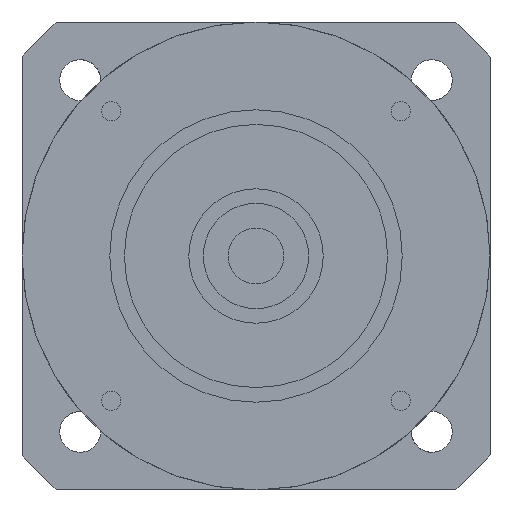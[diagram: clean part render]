
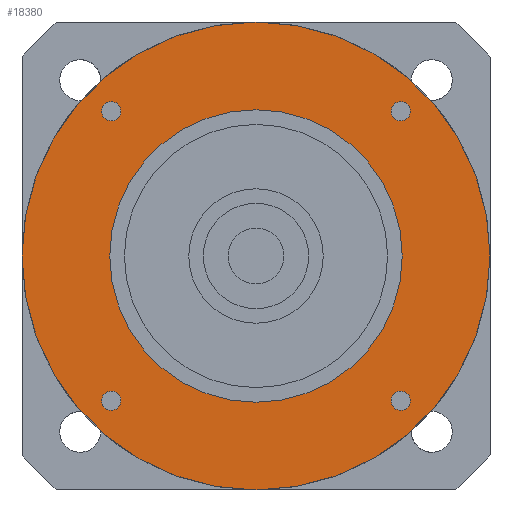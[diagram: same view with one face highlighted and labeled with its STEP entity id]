
A CAD part, left-side view. The second image highlights one B-rep face of the part: STEP entity #18380.
In plain terms, the highlighted planar face has unit normal (-1, 0, 0) as drawn and (0, 0, -1) by its records, which use the part's own axes.
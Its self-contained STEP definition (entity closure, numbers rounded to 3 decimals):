
#13680=CARTESIAN_POINT('',(23.099,24.749,-42.));
#13690=VERTEX_POINT('',#13680);
#13870=CARTESIAN_POINT('',(26.399,24.749,-42.));
#13880=VERTEX_POINT('',#13870);
#13910=CARTESIAN_POINT('',(24.749,24.749,-42.));
#13920=DIRECTION('',(0.,0.,-1.));
#13930=DIRECTION('',(1.,0.,0.));
#13940=AXIS2_PLACEMENT_3D('',#13910,#13920,#13930);
#13950=CIRCLE('',#13940,1.65);
#13960=EDGE_CURVE('',#13690,#13880,#13950,.T.);
#17400=CARTESIAN_POINT('',(-40.,0.,-42.));
#17410=VERTEX_POINT('',#17400);
#17440=CARTESIAN_POINT('',(0.,0.,-42.));
#17450=DIRECTION('',(0.,0.,-1.));
#17460=DIRECTION('',(1.,0.,0.));
#17470=AXIS2_PLACEMENT_3D('',#17440,#17450,#17460);
#17480=CIRCLE('',#17470,40.);
#17490=CARTESIAN_POINT('',(40.,0.,-42.));
#17500=VERTEX_POINT('',#17490);
#17510=EDGE_CURVE('',#17410,#17500,#17480,.T.);
#17630=CARTESIAN_POINT('',(0.,0.,-42.));
#17640=DIRECTION('',(0.,0.,1.));
#17650=DIRECTION('',(1.,0.,0.));
#17660=AXIS2_PLACEMENT_3D('',#17630,#17640,#17650);
#17670=PLANE('',#17660);
#17680=CARTESIAN_POINT('',(24.749,-24.749,-42.));
#17690=DIRECTION('',(0.,0.,-1.));
#17700=DIRECTION('',(1.,0.,0.));
#17710=AXIS2_PLACEMENT_3D('',#17680,#17690,#17700);
#17720=CIRCLE('',#17710,1.65);
#17730=CARTESIAN_POINT('',(26.399,-24.749,-42.));
#17740=VERTEX_POINT('',#17730);
#17750=CARTESIAN_POINT('',(23.099,-24.749,-42.));
#17760=VERTEX_POINT('',#17750);
#17770=EDGE_CURVE('',#17740,#17760,#17720,.T.);
#17780=ORIENTED_EDGE('',*,*,#17770,.F.);
#17790=EDGE_CURVE('',#17760,#17740,#17720,.T.);
#17800=ORIENTED_EDGE('',*,*,#17790,.F.);
#17810=EDGE_LOOP('',(#17800,#17780));
#17820=FACE_BOUND('',#17810,.T.);
#17830=CARTESIAN_POINT('',(0.,0.,-42.));
#17840=DIRECTION('',(0.,0.,1.));
#17850=DIRECTION('',(-1.,0.,0.));
#17860=AXIS2_PLACEMENT_3D('',#17830,#17840,#17850);
#17870=CIRCLE('',#17860,25.);
#17880=CARTESIAN_POINT('',(-25.,0.,-42.));
#17890=VERTEX_POINT('',#17880);
#17900=CARTESIAN_POINT('',(25.,0.,-42.));
#17910=VERTEX_POINT('',#17900);
#17920=EDGE_CURVE('',#17890,#17910,#17870,.T.);
#17930=ORIENTED_EDGE('',*,*,#17920,.T.);
#17940=EDGE_CURVE('',#17910,#17890,#17870,.T.);
#17950=ORIENTED_EDGE('',*,*,#17940,.T.);
#17960=EDGE_LOOP('',(#17950,#17930));
#17970=FACE_BOUND('',#17960,.T.);
#17980=CARTESIAN_POINT('',(-24.749,-24.749,-42.));
#17990=DIRECTION('',(0.,0.,-1.));
#18000=DIRECTION('',(1.,0.,0.));
#18010=AXIS2_PLACEMENT_3D('',#17980,#17990,#18000);
#18020=CIRCLE('',#18010,1.65);
#18030=CARTESIAN_POINT('',(-23.099,-24.749,-42.));
#18040=VERTEX_POINT('',#18030);
#18050=CARTESIAN_POINT('',(-26.399,-24.749,-42.));
#18060=VERTEX_POINT('',#18050);
#18070=EDGE_CURVE('',#18040,#18060,#18020,.T.);
#18080=ORIENTED_EDGE('',*,*,#18070,.F.);
#18090=EDGE_CURVE('',#18060,#18040,#18020,.T.);
#18100=ORIENTED_EDGE('',*,*,#18090,.F.);
#18110=EDGE_LOOP('',(#18100,#18080));
#18120=FACE_BOUND('',#18110,.T.);
#18130=CARTESIAN_POINT('',(-24.749,24.749,-42.));
#18140=DIRECTION('',(0.,0.,-1.));
#18150=DIRECTION('',(1.,0.,0.));
#18160=AXIS2_PLACEMENT_3D('',#18130,#18140,#18150);
#18170=CIRCLE('',#18160,1.65);
#18180=CARTESIAN_POINT('',(-23.099,24.749,-42.));
#18190=VERTEX_POINT('',#18180);
#18200=CARTESIAN_POINT('',(-26.399,24.749,-42.));
#18210=VERTEX_POINT('',#18200);
#18220=EDGE_CURVE('',#18190,#18210,#18170,.T.);
#18230=ORIENTED_EDGE('',*,*,#18220,.F.);
#18240=EDGE_CURVE('',#18210,#18190,#18170,.T.);
#18250=ORIENTED_EDGE('',*,*,#18240,.F.);
#18260=EDGE_LOOP('',(#18250,#18230));
#18270=FACE_BOUND('',#18260,.T.);
#18280=EDGE_CURVE('',#13880,#13690,#13950,.T.);
#18290=ORIENTED_EDGE('',*,*,#18280,.F.);
#18300=ORIENTED_EDGE('',*,*,#13960,.F.);
#18310=EDGE_LOOP('',(#18300,#18290));
#18320=FACE_BOUND('',#18310,.T.);
#18330=EDGE_CURVE('',#17500,#17410,#17480,.T.);
#18340=ORIENTED_EDGE('',*,*,#18330,.T.);
#18350=ORIENTED_EDGE('',*,*,#17510,.T.);
#18360=EDGE_LOOP('',(#18350,#18340));
#18370=FACE_OUTER_BOUND('',#18360,.T.);
#18380=ADVANCED_FACE('',(#17820,#17970,#18120,#18270,#18320,#18370),
#17670,.F.);
